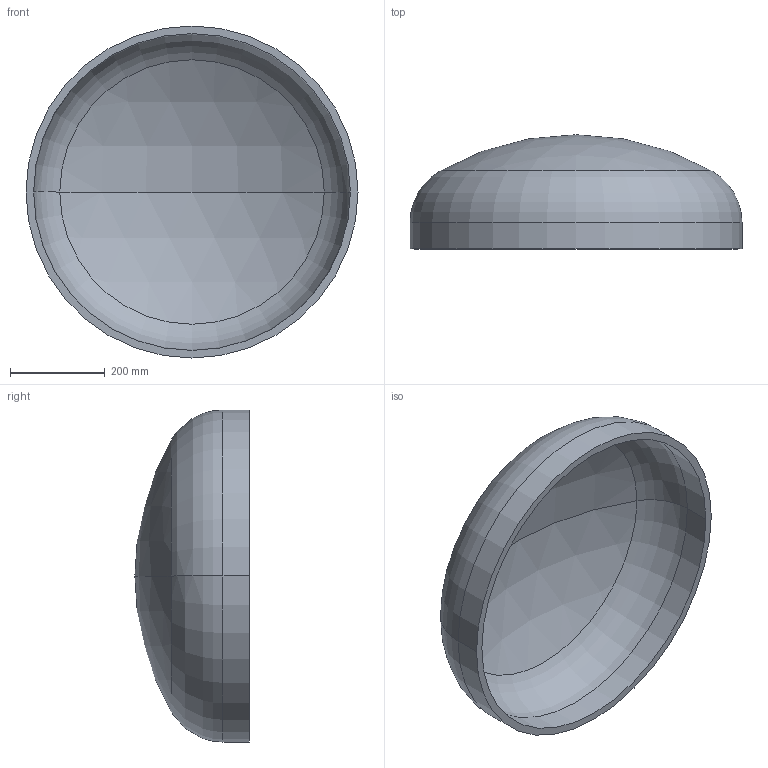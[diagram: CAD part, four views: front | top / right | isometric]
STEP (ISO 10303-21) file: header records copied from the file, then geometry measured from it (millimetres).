
FILE_DESCRIPTION (( 'STEP AP203' ), '1' );
FILE_NAME ('DIN 28013 Korbbogenform_-_Boden DIN 28013 - 700 x 55 - I - s=16.step', '2016-07-01T08:04:46', ( '' ), ( '' ), 'SwSTEP 2.0', 'SolidWorks 2013', '' );
FILE_SCHEMA (( 'CONFIG_CONTROL_DESIGN' ));
Length unit declared in the file: millimetre
Products named in the file (1): DIN 28013 Korbbogenform_-_Boden DIN 28013 - 700 x 55 - I - s=16
Bounding box: 700 x 240.71 x 700 mm (x, y, z)
Volume: 10200440.9 mm3; surface area: 1309972.5 mm2
Topology: 1 solids, 1 shells, 13 faces, 24 edges, 14 vertices
Faces by surface type: torus 4, cylinder 4, sphere 4, plane 1
Entity records: 407 total; most frequent: DIRECTION 72, CARTESIAN_POINT 52, ORIENTED_EDGE 48, AXIS2_PLACEMENT_3D 34, EDGE_CURVE 24, CIRCLE 20, VERTEX_POINT 14, EDGE_LOOP 14
